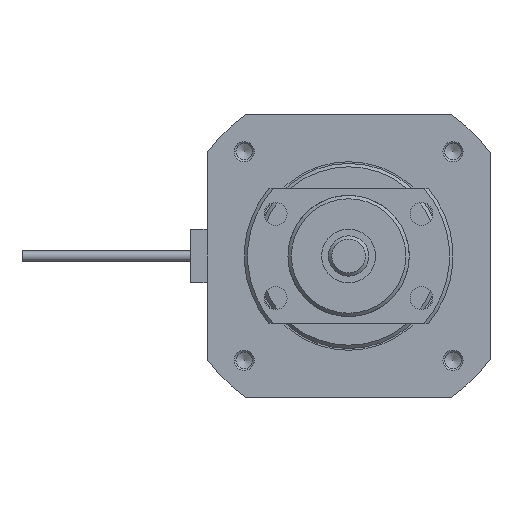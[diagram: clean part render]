
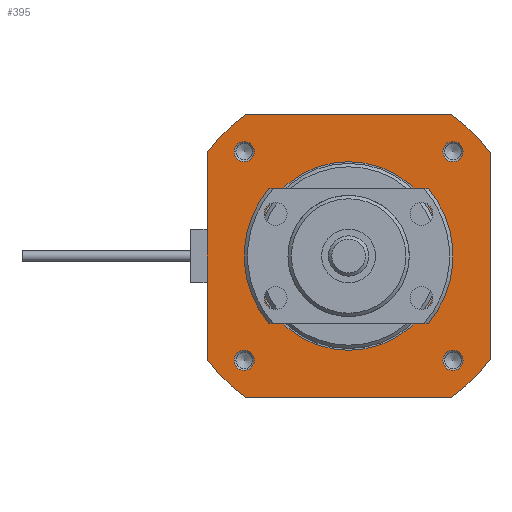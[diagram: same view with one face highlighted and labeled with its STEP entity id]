
A CAD part, left-side view. The second image highlights one B-rep face of the part: STEP entity #395.
In plain terms, the highlighted planar face has unit normal (-1, 0, 0) as drawn and (0, 0, 1) by its records, which use the part's own axes.
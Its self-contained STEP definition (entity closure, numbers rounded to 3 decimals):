
#395 = ADVANCED_FACE( '', ( #953, #954, #955, #956, #957, #958 ), #959, .F. );
#953 = FACE_OUTER_BOUND( '', #1778, .T. );
#954 = FACE_BOUND( '', #1779, .T. );
#955 = FACE_BOUND( '', #1780, .T. );
#956 = FACE_BOUND( '', #1781, .T. );
#957 = FACE_BOUND( '', #1782, .T. );
#958 = FACE_BOUND( '', #1783, .T. );
#959 = PLANE( '', #1784 );
#1778 = EDGE_LOOP( '', ( #2949, #2950, #2951, #2952, #2953, #2954, #2955, #2956 ) );
#1779 = EDGE_LOOP( '', ( #2957 ) );
#1780 = EDGE_LOOP( '', ( #2958 ) );
#1781 = EDGE_LOOP( '', ( #2959 ) );
#1782 = EDGE_LOOP( '', ( #2960 ) );
#1783 = EDGE_LOOP( '', ( #2961 ) );
#1784 = AXIS2_PLACEMENT_3D( '', #2962, #2963, #2964 );
#2949 = ORIENTED_EDGE( '', *, *, #4618, .T. );
#2950 = ORIENTED_EDGE( '', *, *, #4762, .F. );
#2951 = ORIENTED_EDGE( '', *, *, #4763, .T. );
#2952 = ORIENTED_EDGE( '', *, *, #4525, .F. );
#2953 = ORIENTED_EDGE( '', *, *, #4764, .T. );
#2954 = ORIENTED_EDGE( '', *, *, #4765, .F. );
#2955 = ORIENTED_EDGE( '', *, *, #4735, .T. );
#2956 = ORIENTED_EDGE( '', *, *, #4766, .F. );
#2957 = ORIENTED_EDGE( '', *, *, #4767, .T. );
#2958 = ORIENTED_EDGE( '', *, *, #4768, .T. );
#2959 = ORIENTED_EDGE( '', *, *, #4769, .T. );
#2960 = ORIENTED_EDGE( '', *, *, #4770, .T. );
#2961 = ORIENTED_EDGE( '', *, *, #4771, .T. );
#2962 = CARTESIAN_POINT( '', ( 0., 14., -192. ) );
#2963 = DIRECTION( '', ( 0., 0., -1. ) );
#2964 = DIRECTION( '', ( -1., 0., 0. ) );
#4525 = EDGE_CURVE( '', #5331, #5327, #5333, .T. );
#4618 = EDGE_CURVE( '', #5497, #5495, #5498, .T. );
#4735 = EDGE_CURVE( '', #5699, #5697, #5700, .T. );
#4762 = EDGE_CURVE( '', #5740, #5495, #5741, .T. );
#4763 = EDGE_CURVE( '', #5740, #5327, #5742, .T. );
#4764 = EDGE_CURVE( '', #5331, #5743, #5744, .T. );
#4765 = EDGE_CURVE( '', #5699, #5743, #5745, .T. );
#4766 = EDGE_CURVE( '', #5497, #5697, #5746, .T. );
#4767 = EDGE_CURVE( '', #5747, #5747, #5748, .T. );
#4768 = EDGE_CURVE( '', #5749, #5749, #5750, .T. );
#4769 = EDGE_CURVE( '', #5751, #5751, #5752, .T. );
#4770 = EDGE_CURVE( '', #5753, #5753, #5754, .T. );
#4771 = EDGE_CURVE( '', #5755, #5755, #5756, .T. );
#5327 = VERTEX_POINT( '', #6521 );
#5331 = VERTEX_POINT( '', #6526 );
#5333 = CIRCLE( '', #6529, 26. );
#5495 = VERTEX_POINT( '', #6872 );
#5497 = VERTEX_POINT( '', #6875 );
#5498 = LINE( '', #6876, #6877 );
#5697 = VERTEX_POINT( '', #7203 );
#5699 = VERTEX_POINT( '', #7206 );
#5700 = LINE( '', #7207, #7208 );
#5740 = VERTEX_POINT( '', #7272 );
#5741 = CIRCLE( '', #7273, 26. );
#5742 = LINE( '', #7274, #7275 );
#5743 = VERTEX_POINT( '', #7276 );
#5744 = LINE( '', #7277, #7278 );
#5745 = CIRCLE( '', #7279, 26. );
#5746 = CIRCLE( '', #7280, 26. );
#5747 = VERTEX_POINT( '', #7281 );
#5748 = CIRCLE( '', #7282, 1.5 );
#5749 = VERTEX_POINT( '', #7283 );
#5750 = CIRCLE( '', #7284, 1.5 );
#5751 = VERTEX_POINT( '', #7285 );
#5752 = CIRCLE( '', #7286, 1.5 );
#5753 = VERTEX_POINT( '', #7287 );
#5754 = CIRCLE( '', #7288, 1.5 );
#5755 = VERTEX_POINT( '', #7289 );
#5756 = CIRCLE( '', #7290, 14. );
#6521 = CARTESIAN_POINT( '', ( -21., -15.33, -192. ) );
#6526 = CARTESIAN_POINT( '', ( -15.33, -21., -192. ) );
#6529 = AXIS2_PLACEMENT_3D( '', #8340, #8341, #8342 );
#6872 = CARTESIAN_POINT( '', ( -15.33, 21., -192. ) );
#6875 = CARTESIAN_POINT( '', ( 15.33, 21., -192. ) );
#6876 = CARTESIAN_POINT( '', ( 21., 21., -192. ) );
#6877 = VECTOR( '', #8435, 1000. );
#7203 = CARTESIAN_POINT( '', ( 21., 15.33, -192. ) );
#7206 = CARTESIAN_POINT( '', ( 21., -15.33, -192. ) );
#7207 = CARTESIAN_POINT( '', ( 21., -21., -192. ) );
#7208 = VECTOR( '', #8555, 1000. );
#7272 = CARTESIAN_POINT( '', ( -21., 15.33, -192. ) );
#7273 = AXIS2_PLACEMENT_3D( '', #8578, #8579, #8580 );
#7274 = CARTESIAN_POINT( '', ( -21., 21., -192. ) );
#7275 = VECTOR( '', #8581, 1000. );
#7276 = CARTESIAN_POINT( '', ( 15.33, -21., -192. ) );
#7277 = CARTESIAN_POINT( '', ( -21., -21., -192. ) );
#7278 = VECTOR( '', #8582, 1000. );
#7279 = AXIS2_PLACEMENT_3D( '', #8583, #8584, #8585 );
#7280 = AXIS2_PLACEMENT_3D( '', #8586, #8587, #8588 );
#7281 = CARTESIAN_POINT( '', ( 14., -15.5, -192. ) );
#7282 = AXIS2_PLACEMENT_3D( '', #8589, #8590, #8591 );
#7283 = CARTESIAN_POINT( '', ( -17., -15.5, -192. ) );
#7284 = AXIS2_PLACEMENT_3D( '', #8592, #8593, #8594 );
#7285 = CARTESIAN_POINT( '', ( 14., 15.5, -192. ) );
#7286 = AXIS2_PLACEMENT_3D( '', #8595, #8596, #8597 );
#7287 = CARTESIAN_POINT( '', ( -17., 15.5, -192. ) );
#7288 = AXIS2_PLACEMENT_3D( '', #8598, #8599, #8600 );
#7289 = CARTESIAN_POINT( '', ( -14., 0., -192. ) );
#7290 = AXIS2_PLACEMENT_3D( '', #8601, #8602, #8603 );
#8340 = CARTESIAN_POINT( '', ( 0., 0., -192. ) );
#8341 = DIRECTION( '', ( 0., 0., -1. ) );
#8342 = DIRECTION( '', ( -1., 0., 0. ) );
#8435 = DIRECTION( '', ( -1., 0., 0. ) );
#8555 = DIRECTION( '', ( 0., 1., 0. ) );
#8578 = CARTESIAN_POINT( '', ( 0., 0., -192. ) );
#8579 = DIRECTION( '', ( 0., 0., -1. ) );
#8580 = DIRECTION( '', ( -1., 0., 0. ) );
#8581 = DIRECTION( '', ( 0., -1., 0. ) );
#8582 = DIRECTION( '', ( 1., 0., 0. ) );
#8583 = CARTESIAN_POINT( '', ( 0., 0., -192. ) );
#8584 = DIRECTION( '', ( 0., 0., -1. ) );
#8585 = DIRECTION( '', ( -1., 0., 0. ) );
#8586 = CARTESIAN_POINT( '', ( 0., 0., -192. ) );
#8587 = DIRECTION( '', ( 0., 0., -1. ) );
#8588 = DIRECTION( '', ( -1., 0., 0. ) );
#8589 = CARTESIAN_POINT( '', ( 15.5, -15.5, -192. ) );
#8590 = DIRECTION( '', ( 0., 0., -1. ) );
#8591 = DIRECTION( '', ( -1., 0., 0. ) );
#8592 = CARTESIAN_POINT( '', ( -15.5, -15.5, -192. ) );
#8593 = DIRECTION( '', ( 0., 0., -1. ) );
#8594 = DIRECTION( '', ( -1., 0., 0. ) );
#8595 = CARTESIAN_POINT( '', ( 15.5, 15.5, -192. ) );
#8596 = DIRECTION( '', ( 0., 0., -1. ) );
#8597 = DIRECTION( '', ( -1., 0., 0. ) );
#8598 = CARTESIAN_POINT( '', ( -15.5, 15.5, -192. ) );
#8599 = DIRECTION( '', ( 0., 0., -1. ) );
#8600 = DIRECTION( '', ( -1., 0., 0. ) );
#8601 = CARTESIAN_POINT( '', ( 0., 0., -192. ) );
#8602 = DIRECTION( '', ( 0., 0., -1. ) );
#8603 = DIRECTION( '', ( -1., 0., 0. ) );
